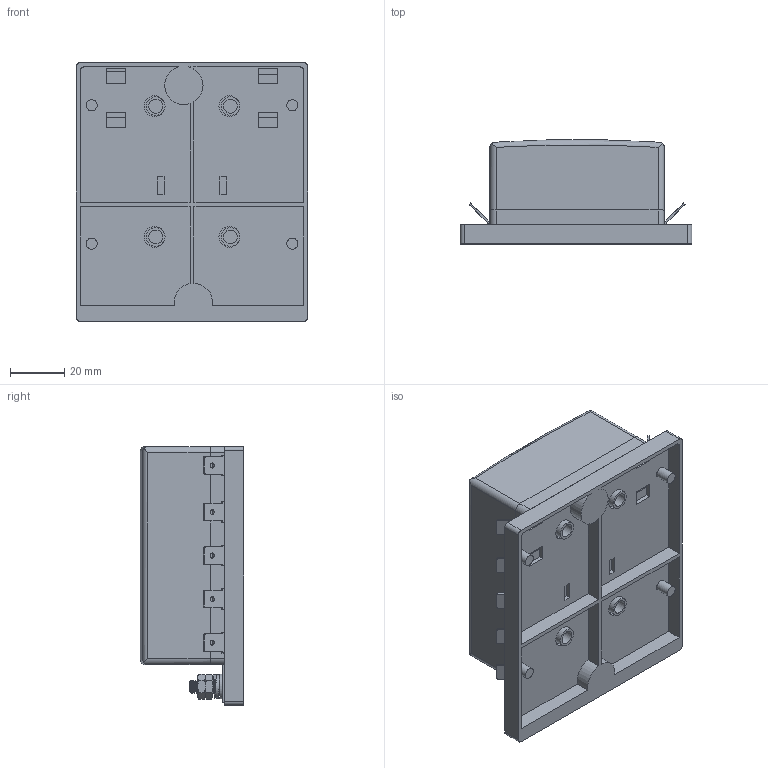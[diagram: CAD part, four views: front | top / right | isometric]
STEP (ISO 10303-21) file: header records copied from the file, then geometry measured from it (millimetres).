
FILE_DESCRIPTION(/* description */ (''),/* implementation_level */ '2;1');
FILE_NAME(/* name */ 'C:\Users\Hani\Desktop\work\BLS-310\BLS-I-310.stp',/* time_stamp */ '2021-07-07T10:46:42-07:00',/* author */ ('Hani'),/* organization */ (''),/* preprocessor_version */ 'ST-DEVELOPER v17',/* originating_system */ 'Autodesk Inventor 2019',/* authorisation */ '');
FILE_SCHEMA (('AUTOMOTIVE_DESIGN { 1 0 10303 214 3 1 1 }'));
Length unit declared in the file: inch
Products named in the file (11): BLS-I-310; BLR-I-310-G_base; BLS-I-310-BLOCK; plate2; terminal; terminal_MIR2; STUD; HEX NUT; LOCK WASHER; WASHER; cover
Assembly tree (19 placements, depth 2):
  BLS-I-310
    BLR-I-310-G_base
    BLS-I-310-BLOCK
    plate2
    terminal  x5
    terminal_MIR2  x5
    STUD
    HEX NUT  x2
    LOCK WASHER
    WASHER
    cover
Bounding box: 85.09 x 38.12 x 95 mm (x, y, z)
Volume: 109986.5 mm3; surface area: 73655.6 mm2
Topology: 19 solids, 19 shells, 1126 faces, 2907 edges, 1886 vertices
Faces by surface type: plane 621, bspline 220, cylinder 182, cone 64, torus 23, sphere 16
Full cylindrical faces by diameter (mm): 1.905 x10, 3.769 x16, 3.795 x2, 4.064 x4, 4.801 x17, 4.826 x6, 4.953 x1, 5.08 x6, 6.858 x4, 7.62 x4, 8.992 x1, 9.779 x4
Entity records: 35499 total; most frequent: CARTESIAN_POINT 12961, ORIENTED_EDGE 4940, DIRECTION 3855, EDGE_CURVE 2470, VERTEX_POINT 1604, LINE 1525, VECTOR 1525, AXIS2_PLACEMENT_3D 1165
